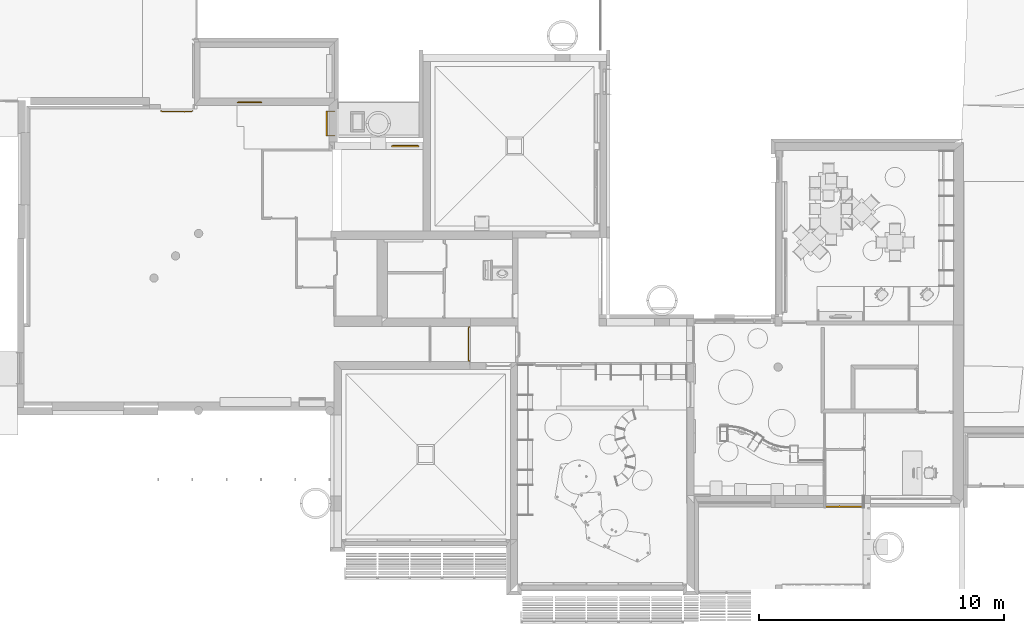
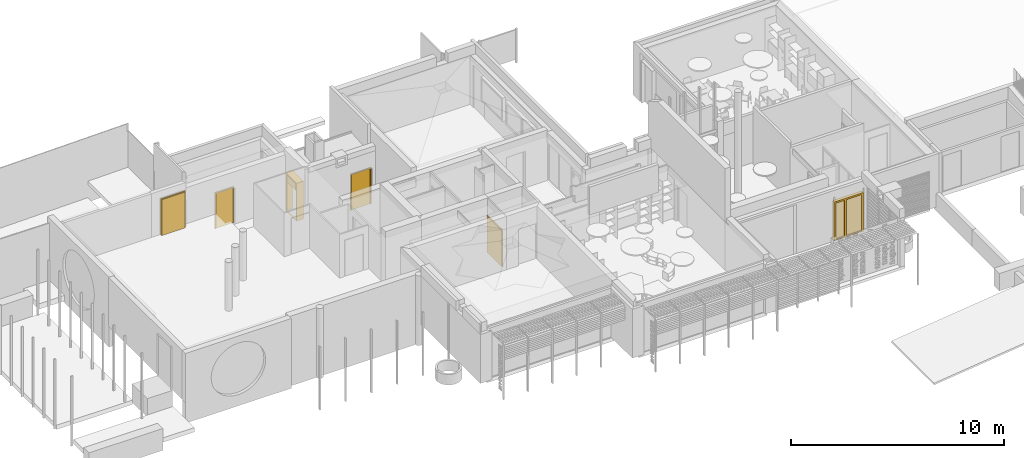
# One storey, part 46 of 64: 5 doors, 1 window.
"""IFC2X3 building model written with IfcOpenShell, lengths in metres."""

from ifc_helpers import new_model, entity, si_unit, converted_unit, derived_unit, direction, frame, origin, place, context, subcontext, project, spatial, faceted_brep, source, transform, mapped, material, type_object, type_shapes, element, save


model = new_model("IFC2X3")

# Units and contexts
model_context = context("Model", 3, precision=1e-05, world=origin(), true_north=direction((6.123031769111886e-17, 1.0)))
body_context = subcontext(model_context, "Body", "Model", "MODEL_VIEW")
ifc_project = project(units=[si_unit("LENGTHUNIT", "METRE"), si_unit("AREAUNIT", "SQUARE_METRE"), si_unit("VOLUMEUNIT", "CUBIC_METRE"), converted_unit("PLANEANGLEUNIT", "DEGREE", entity("IfcRatioMeasure", 0.017453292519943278), si_unit("PLANEANGLEUNIT", "RADIAN"), dimensions=[0, 0, 0, 0, 0, 0, 0]), si_unit("MASSUNIT", "GRAM", prefix="KILO"), derived_unit("MASSDENSITYUNIT", [(si_unit("MASSUNIT", "GRAM", prefix="KILO"), 1), (si_unit("LENGTHUNIT", "METRE"), -3)]), derived_unit("MOMENTOFINERTIAUNIT", [(si_unit("LENGTHUNIT", "METRE"), 4)]), si_unit("TIMEUNIT", "SECOND"), si_unit("FREQUENCYUNIT", "HERTZ"), si_unit("THERMODYNAMICTEMPERATUREUNIT", "DEGREE_CELSIUS"), derived_unit("THERMALTRANSMITTANCEUNIT", [(si_unit("MASSUNIT", "GRAM", prefix="KILO"), 1), (si_unit("THERMODYNAMICTEMPERATUREUNIT", "KELVIN"), -1), (si_unit("TIMEUNIT", "SECOND"), -3)]), derived_unit("THERMALCONDUCTANCEUNIT", [(si_unit("MASSUNIT", "GRAM", prefix="KILO"), 1), (si_unit("LENGTHUNIT", "METRE"), 1), (si_unit("THERMODYNAMICTEMPERATUREUNIT", "KELVIN"), -1), (si_unit("TIMEUNIT", "SECOND"), -3)]), derived_unit("VOLUMETRICFLOWRATEUNIT", [(si_unit("LENGTHUNIT", "METRE"), 3), (si_unit("TIMEUNIT", "SECOND"), -1)]), derived_unit("MASSFLOWRATEUNIT", [(si_unit("MASSUNIT", "GRAM", prefix="KILO"), 1), (si_unit("TIMEUNIT", "SECOND"), -1)]), derived_unit("ROTATIONALFREQUENCYUNIT", [(si_unit("TIMEUNIT", "SECOND"), -1)]), si_unit("ELECTRICCURRENTUNIT", "AMPERE"), si_unit("ELECTRICVOLTAGEUNIT", "VOLT"), si_unit("POWERUNIT", "WATT"), si_unit("FORCEUNIT", "NEWTON", prefix="KILO"), si_unit("ILLUMINANCEUNIT", "LUX"), si_unit("LUMINOUSFLUXUNIT", "LUMEN"), si_unit("LUMINOUSINTENSITYUNIT", "CANDELA"), derived_unit("USERDEFINED", [(si_unit("MASSUNIT", "GRAM", prefix="KILO"), -1), (si_unit("LENGTHUNIT", "METRE"), -2), (si_unit("TIMEUNIT", "SECOND"), 3), (si_unit("LUMINOUSFLUXUNIT", "LUMEN"), 1)]), derived_unit("USERDEFINED", [(si_unit("MASSUNIT", "GRAM", prefix="KILO"), 1), (si_unit("LENGTHUNIT", "METRE"), 3), (si_unit("TIMEUNIT", "SECOND"), -3), (si_unit("ELECTRICCURRENTUNIT", "AMPERE"), -2)]), derived_unit("USERDEFINED", [(si_unit("LENGTHUNIT", "METRE"), 2), (si_unit("TIMEUNIT", "SECOND"), -2)]), derived_unit("SOUNDPOWERUNIT", [(si_unit("MASSUNIT", "GRAM", prefix="KILO"), 1), (si_unit("LENGTHUNIT", "METRE"), 2), (si_unit("TIMEUNIT", "SECOND"), -3)]), derived_unit("SOUNDPRESSUREUNIT", [(si_unit("MASSUNIT", "GRAM", prefix="KILO"), 1), (si_unit("LENGTHUNIT", "METRE"), -1), (si_unit("TIMEUNIT", "SECOND"), -2)]), derived_unit("LINEARVELOCITYUNIT", [(si_unit("LENGTHUNIT", "METRE"), 1), (si_unit("TIMEUNIT", "SECOND"), -1)]), si_unit("PRESSUREUNIT", "PASCAL"), derived_unit("USERDEFINED", [(si_unit("LENGTHUNIT", "METRE"), -2), (si_unit("MASSUNIT", "GRAM", prefix="KILO"), 1), (si_unit("TIMEUNIT", "SECOND"), -2)]), derived_unit("LINEARFORCEUNIT", [(si_unit("MASSUNIT", "GRAM", prefix="KILO"), 1), (si_unit("LENGTHUNIT", "METRE"), 1), (si_unit("TIMEUNIT", "SECOND"), -2), (si_unit("LENGTHUNIT", "METRE"), -1)]), derived_unit("PLANARFORCEUNIT", [(si_unit("MASSUNIT", "GRAM", prefix="KILO"), 1), (si_unit("LENGTHUNIT", "METRE"), 1), (si_unit("TIMEUNIT", "SECOND"), -2), (si_unit("LENGTHUNIT", "METRE"), -2)]), derived_unit("SPECIFICHEATCAPACITYUNIT", [(si_unit("LENGTHUNIT", "METRE"), 2), (si_unit("TIMEUNIT", "SECOND"), -2), (si_unit("THERMODYNAMICTEMPERATUREUNIT", "KELVIN"), -1)]), derived_unit("VAPORPERMEABILITYUNIT", [(si_unit("TIMEUNIT", "SECOND"), 1), (si_unit("LENGTHUNIT", "METRE"), -1)]), derived_unit("DYNAMICVISCOSITYUNIT", [(si_unit("MASSUNIT", "GRAM", prefix="KILO"), 1), (si_unit("LENGTHUNIT", "METRE"), -1), (si_unit("TIMEUNIT", "SECOND"), -1)]), derived_unit("THERMALEXPANSIONCOEFFICIENTUNIT", [(si_unit("THERMODYNAMICTEMPERATUREUNIT", "KELVIN"), -1)])], contexts=[model_context])

# Site, building, storey
site_placement = place(None, origin())
site = spatial("IfcSite", under=ifc_project, at=site_placement, Name="Default", CompositionType="ELEMENT")
building_placement = place(site_placement, origin())
building = spatial("IfcBuilding", under=site, at=building_placement, CompositionType="ELEMENT")
storey_placement = place(building_placement, origin())
storey = spatial("IfcBuildingStorey", under=building, at=storey_placement, Name="REZ-DE-CHAUSSÉE", CompositionType="ELEMENT", Elevation=0.0)

# Doors
ifc_material_1 = material(Name="Peinture - Anthracite")
door_style_1 = type_object("IfcDoorStyle", Name="Por-003", ConstructionType="NOTDEFINED", OperationType="SINGLE_SWING_RIGHT", ParameterTakesPrecedence=False, Sizeable=False, material=ifc_material_1)
shared_shape_1 = source(origin(), body_context, "Body", "Brep", [
    faceted_brep([(1.1299999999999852, -0.30600000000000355, 0.0), (1.0949999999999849, -0.30600000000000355, 0.0), (1.0949999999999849, -0.30600000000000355, 2.055), (0.03499999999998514, -0.30600000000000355, 2.055), (0.03499999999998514, -0.30600000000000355, 0.0), (0.0, -0.30600000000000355, 0.0), (0.0, -0.30600000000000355, 2.09), (1.1299999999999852, -0.30600000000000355, 2.09), (1.1299999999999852, -0.35600000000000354, 0.0), (1.0799999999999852, -0.35600000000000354, 0.0), (1.0799999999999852, -0.3210000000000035, 0.0), (1.0949999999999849, -0.3210000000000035, 0.0), (1.0949999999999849, -0.3210000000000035, 2.055), (0.03499999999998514, -0.3210000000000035, 2.055), (0.03499999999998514, -0.3210000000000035, 0.0), (0.04999999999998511, -0.3210000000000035, 0.0), (0.04999999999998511, -0.35600000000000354, 0.0), (0.0, -0.35600000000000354, 0.0), (0.0, -0.35600000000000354, 2.09), (1.1299999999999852, -0.35600000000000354, 2.09), (0.04999999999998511, -0.35600000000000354, 2.04), (1.0799999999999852, -0.35600000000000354, 2.04), (1.0799999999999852, -0.3210000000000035, 2.04), (0.04999999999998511, -0.3210000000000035, 2.04), (1.0949999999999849, -0.28100000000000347, 0.0), (0.03499999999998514, -0.28100000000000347, 0.0), (1.0949999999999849, -0.28100000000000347, 2.055), (0.03499999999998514, -0.28100000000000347, 2.055)], [[[0, 1, 2, 3, 4, 5, 6, 7]], [[0, 8, 9, 10, 11, 1]], [[1, 11, 12, 2]], [[2, 12, 13, 3]], [[3, 13, 14, 4]], [[5, 4, 14, 15, 16, 17]], [[18, 6, 5, 17]], [[19, 7, 6, 18]], [[8, 0, 7, 19]], [[9, 8, 19, 18, 17, 16, 20, 21]], [[10, 9, 21, 22]], [[11, 10, 22, 23, 15, 14, 13, 12]], [[23, 20, 16, 15]], [[22, 21, 20, 23]], [[24, 11, 14, 25]], [[26, 12, 11, 24]], [[11, 12, 13, 14]], [[25, 14, 13, 27]], [[24, 25, 27, 26]], [[27, 13, 12, 26]]]),
])
type_shapes(door_style_1, [shared_shape_1])
door_1_placement = place(storey_placement, frame((105.01075227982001, 22.683209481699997, -1.0)))
element("IfcDoor", 1, at=door_1_placement, inside=storey, type_object=door_style_1, material=ifc_material_1, Name="Por-003 14862:Por-003 14862", ObjectType="Por-003 14862:Por-003 14862", OverallHeight=2.09, OverallWidth=1.1300000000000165, context=body_context, shape_type="MappedRepresentation", body=[
    mapped(shared_shape_1, transform((0.0, 0.0, 0.0), scale=1.0)),
])
ifc_material_2 = material(Name="Peinture - Gris clair")
door_style_2 = type_object("IfcDoorStyle", Name="Por-003", ConstructionType="NOTDEFINED", OperationType="SINGLE_SWING_LEFT", ParameterTakesPrecedence=False, Sizeable=False, material=ifc_material_2)
shared_shape_2 = source(origin(), body_context, "Body", "Brep", [
    faceted_brep([(0.0, 0.29579999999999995, 0.0), (0.0, 0.29579999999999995, 2.09), (1.03, 0.29579999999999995, 2.09), (1.03, 0.29579999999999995, 0.0), (0.995, 0.29579999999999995, 0.0), (0.995, 0.29579999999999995, 2.055), (0.03500000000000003, 0.29579999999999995, 2.055), (0.03500000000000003, 0.29579999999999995, 0.0), (0.0, 0.24579999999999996, 0.0), (0.0, 0.24579999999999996, 2.09), (1.03, 0.24579999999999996, 2.09), (1.03, 0.24579999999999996, 0.0), (0.98, 0.24579999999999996, 0.0), (0.98, 0.28079999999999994, 0.0), (0.995, 0.28079999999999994, 0.0), (0.995, 0.28079999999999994, 2.055), (0.03500000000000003, 0.28079999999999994, 2.055), (0.03500000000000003, 0.28079999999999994, 0.0), (0.05, 0.28079999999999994, 0.0), (0.05, 0.24579999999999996, 0.0), (0.98, 0.24579999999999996, 2.04), (0.05, 0.24579999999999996, 2.04), (0.98, 0.28079999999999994, 2.04), (0.05, 0.28079999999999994, 2.04), (0.03500000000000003, 0.3208, 0.0), (0.995, 0.3208, 0.0), (0.03500000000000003, 0.3208, 2.055), (0.995, 0.3208, 2.055)], [[[0, 1, 2, 3, 4, 5, 6, 7]], [[8, 9, 1, 0]], [[9, 10, 2, 1]], [[10, 11, 3, 2]], [[3, 11, 12, 13, 14, 4]], [[5, 4, 14, 15]], [[6, 5, 15, 16]], [[7, 6, 16, 17]], [[0, 7, 17, 18, 19, 8]], [[19, 8, 9, 10, 11, 12, 20, 21]], [[22, 13, 12, 20]], [[17, 16, 15, 14, 13, 22, 23, 18]], [[18, 23, 21, 19]], [[23, 22, 20, 21]], [[24, 25, 14, 17]], [[24, 26, 27, 25]], [[25, 27, 15, 14]], [[17, 14, 15, 16]], [[26, 24, 17, 16]], [[27, 26, 16, 15]]]),
])
type_shapes(door_style_2, [shared_shape_2])
door_2_placement = place(storey_placement, frame((98.70075228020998, 23.871409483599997, -0.94)))
element("IfcDoor", 2, at=door_2_placement, inside=storey, type_object=door_style_2, material=ifc_material_2, Name="Por-003 9927:Por-003 9927", ObjectType="Por-003 9927:Por-003 9927", OverallHeight=2.09, OverallWidth=1.0300000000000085, context=body_context, shape_type="MappedRepresentation", body=[
    mapped(shared_shape_2, transform((0.0, 0.0, 0.0), scale=1.0)),
])
door_style_3 = type_object("IfcDoorStyle", Name="Por-003", ConstructionType="NOTDEFINED", OperationType="DOUBLE_DOOR_SINGLE_SWING", ParameterTakesPrecedence=False, Sizeable=False, material=ifc_material_2)
shared_shape_3 = source(origin(), body_context, "Body", "Brep", [
    faceted_brep([(1.329999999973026, 0.3837999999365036, 0.0), (1.2949999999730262, 0.38379999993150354, 0.0), (1.2949999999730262, 0.38379999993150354, 2.055), (0.03499999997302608, 0.3837999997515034, 2.055), (0.03499999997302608, 0.3837999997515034, 0.0), (0.0, 0.3837999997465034, 0.0), (0.0, 0.3837999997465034, 2.09), (1.329999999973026, 0.3837999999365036, 2.09), (1.329999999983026, 0.33379999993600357, 0.0), (1.2799999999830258, 0.33379999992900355, 0.0), (1.279999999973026, 0.36879999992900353, 0.0), (1.2949999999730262, 0.3687999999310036, 0.0), (1.2949999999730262, 0.3687999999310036, 2.055), (0.03499999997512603, 0.36879999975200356, 2.055), (0.03499999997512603, 0.36879999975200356, 0.0), (0.04999999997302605, 0.3687999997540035, 0.0), (0.04999999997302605, 0.3337999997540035, 0.0), (0.0, 0.3337999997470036, 0.0), (0.0, 0.3337999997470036, 2.09), (1.329999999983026, 0.33379999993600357, 2.09), (0.04999999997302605, 0.3337999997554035, 2.04), (1.2799999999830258, 0.3337999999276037, 2.04), (1.279999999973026, 0.36879999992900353, 2.04), (0.04999999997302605, 0.368799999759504, 2.04), (0.03749999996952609, 0.4087999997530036, 0.0), (0.33749999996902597, 0.4087999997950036, 0.0), (0.337499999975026, 0.3687999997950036, 0.0), (0.03749999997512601, 0.3687999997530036, 0.0), (0.03749999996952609, 0.4087999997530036, 2.055), (0.337499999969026, 0.4087999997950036, 2.055), (0.33749999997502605, 0.3687999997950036, 2.055), (0.03749999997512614, 0.3687999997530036, 2.055), (1.2949999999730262, 0.4087999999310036, 0.0), (0.33999999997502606, 0.3687999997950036, 0.0), (0.3399999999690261, 0.4087999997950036, 0.0), (1.2949999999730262, 0.4087999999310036, 2.055), (0.33999999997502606, 0.3687999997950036, 2.055), (0.339999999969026, 0.4087999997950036, 2.055), (0.35499999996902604, 0.4137999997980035, 0.0), (0.3249999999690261, 0.4137999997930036, 0.0), (0.3249999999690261, 0.4137999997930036, 2.055), (0.35499999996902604, 0.4137999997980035, 2.055), (0.35499999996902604, 0.4087999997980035, 0.0), (0.324999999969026, 0.4087999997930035, 0.0), (0.324999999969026, 0.4087999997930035, 2.055), (0.35499999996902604, 0.4087999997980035, 2.055)], [[[0, 1, 2, 3, 4, 5, 6, 7]], [[0, 8, 9, 10, 11, 1]], [[1, 11, 12, 2]], [[2, 12, 13, 3]], [[3, 13, 14, 4]], [[5, 4, 14, 15, 16, 17]], [[18, 6, 5, 17]], [[19, 7, 6, 18]], [[8, 0, 7, 19]], [[9, 8, 19, 18, 17, 16, 20, 21]], [[10, 9, 21, 22]], [[11, 10, 22, 23, 15, 14, 13, 12]], [[23, 20, 16, 15]], [[22, 21, 20, 23]], [[24, 25, 26, 27]], [[24, 28, 29, 25]], [[25, 29, 30, 26]], [[27, 26, 30, 31]], [[28, 24, 27, 31]], [[29, 28, 31, 30]], [[32, 11, 33, 34]], [[35, 12, 11, 32]], [[11, 12, 36, 33]], [[34, 33, 36, 37]], [[32, 34, 37, 35]], [[37, 36, 12, 35]], [[38, 39, 40, 41]], [[39, 38, 42, 43]], [[40, 39, 43, 44]], [[41, 40, 44, 45]], [[38, 41, 45, 42]], [[43, 42, 45, 44]]]),
])
type_shapes(door_style_3, [shared_shape_3])
door_3_placement = place(storey_placement, frame((96.90575228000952, 24.156009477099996, 0.0), z_axis=(0.0, 0.0, 1.0), x_axis=(-1.0, 0.0, 0.0)))
element("IfcDoor", 3, at=door_3_placement, inside=storey, type_object=door_style_3, material=ifc_material_2, Name="Por-003 18623:Por-003 18623", ObjectType="Por-003 18623:Por-003 18623", OverallHeight=2.09, OverallWidth=1.3300000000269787, context=body_context, shape_type="MappedRepresentation", body=[
    mapped(shared_shape_3, transform((0.0, 0.0, 0.0), scale=1.0)),
])
door_style_4 = type_object("IfcDoorStyle", Name="Por-003", ConstructionType="NOTDEFINED", OperationType="DOUBLE_DOOR_SINGLE_SWING", ParameterTakesPrecedence=False, Sizeable=False, material=ifc_material_2)
shared_shape_4 = source(origin(), body_context, "Body", "Brep", [
    faceted_brep([(1.439999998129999, 0.10100000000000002, 0.0), (1.404999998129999, 0.10100000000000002, 0.0), (1.404999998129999, 0.10100000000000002, 2.055), (0.03499999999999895, 0.10100000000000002, 2.055), (0.03499999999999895, 0.10100000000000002, 0.0), (0.0, 0.10100000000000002, 0.0), (0.0, 0.10100000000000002, 2.09), (1.439999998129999, 0.10100000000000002, 2.09), (1.439999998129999, 0.051000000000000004, 0.0), (1.3899999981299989, 0.051000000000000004, 0.0), (1.3899999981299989, 0.08600000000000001, 0.0), (1.404999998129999, 0.08600000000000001, 0.0), (1.404999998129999, 0.08600000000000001, 2.055), (0.03499999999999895, 0.08600000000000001, 2.055), (0.03499999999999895, 0.08600000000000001, 0.0), (0.04999999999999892, 0.08600000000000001, 0.0), (0.04999999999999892, 0.051000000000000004, 0.0), (0.0, 0.051000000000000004, 0.0), (0.0, 0.051000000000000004, 2.09), (1.439999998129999, 0.051000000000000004, 2.09), (0.04999999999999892, 0.051000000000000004, 2.04), (1.3899999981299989, 0.051000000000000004, 2.04), (1.3899999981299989, 0.08600000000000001, 2.04), (0.04999999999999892, 0.08600000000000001, 2.04), (0.03749999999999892, 0.12599999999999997, 0.0), (0.45749999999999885, 0.12599999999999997, 0.0), (0.45749999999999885, 0.08600000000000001, 0.0), (0.03749999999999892, 0.08600000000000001, 0.0), (0.03749999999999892, 0.12599999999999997, 2.055), (0.45749999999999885, 0.12599999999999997, 2.055), (0.45749999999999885, 0.08600000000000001, 2.055), (0.03749999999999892, 0.08600000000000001, 2.055), (1.404999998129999, 0.12599999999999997, 0.0), (0.45999999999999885, 0.08600000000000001, 0.0), (0.45999999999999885, 0.12599999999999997, 0.0), (1.404999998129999, 0.12599999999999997, 2.055), (0.45999999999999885, 0.08600000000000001, 2.055), (0.45999999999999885, 0.12599999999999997, 2.055), (0.47499999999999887, 0.131, 0.0), (0.44499999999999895, 0.131, 0.0), (0.44499999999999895, 0.131, 2.055), (0.47499999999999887, 0.131, 2.055), (0.47499999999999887, 0.12599999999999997, 0.0), (0.44499999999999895, 0.12599999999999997, 0.0), (0.44499999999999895, 0.12599999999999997, 2.055), (0.47499999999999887, 0.12599999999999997, 2.055)], [[[0, 1, 2, 3, 4, 5, 6, 7]], [[0, 8, 9, 10, 11, 1]], [[1, 11, 12, 2]], [[2, 12, 13, 3]], [[3, 13, 14, 4]], [[5, 4, 14, 15, 16, 17]], [[18, 6, 5, 17]], [[19, 7, 6, 18]], [[8, 0, 7, 19]], [[9, 8, 19, 18, 17, 16, 20, 21]], [[10, 9, 21, 22]], [[11, 10, 22, 23, 15, 14, 13, 12]], [[23, 20, 16, 15]], [[22, 21, 20, 23]], [[24, 25, 26, 27]], [[24, 28, 29, 25]], [[25, 29, 30, 26]], [[27, 26, 30, 31]], [[28, 24, 27, 31]], [[29, 28, 31, 30]], [[32, 11, 33, 34]], [[35, 12, 11, 32]], [[11, 12, 36, 33]], [[34, 33, 36, 37]], [[32, 34, 37, 35]], [[37, 36, 12, 35]], [[38, 39, 40, 41]], [[39, 38, 42, 43]], [[40, 39, 43, 44]], [[41, 40, 44, 45]], [[38, 41, 45, 42]], [[43, 42, 45, 44]]]),
])
type_shapes(door_style_4, [shared_shape_4])
door_4_placement = place(storey_placement, frame((108.266752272, 13.54720948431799, 0.0), z_axis=(0.0, 0.0, 1.0), x_axis=(0.0, 1.0, 0.0)))
element("IfcDoor", 4, at=door_4_placement, inside=storey, type_object=door_style_4, material=ifc_material_2, Name="Por-003 22154:Por-003 22154", ObjectType="Por-003 22154:Por-003 22154", OverallHeight=2.09, OverallWidth=1.43999999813, context=body_context, shape_type="MappedRepresentation", body=[
    mapped(shared_shape_4, transform((0.0, 0.0, 0.0), scale=1.0)),
])

# Window
window_style = type_object("IfcWindowStyle", Name="Fen-003", ConstructionType="NOTDEFINED", OperationType="SINGLE_PANEL", ParameterTakesPrecedence=False, Sizeable=False, material=ifc_material_1)
shared_shape_5 = source(origin(), body_context, "Body", "Brep", [
    faceted_brep([(124.30075228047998, 7.587209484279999, 0.0), (122.72075228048, 7.587209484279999, 0.0), (122.72075228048, 7.657209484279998, 0.0), (124.30075228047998, 7.657209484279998, 0.0), (124.30075228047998, 7.587209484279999, 2.23), (122.72075228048, 7.587209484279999, 2.23), (124.25075228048, 7.587209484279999, 0.0), (122.77075228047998, 7.587209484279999, 0.0), (122.77075228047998, 7.587209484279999, 2.18), (124.25075228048, 7.587209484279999, 2.18), (122.72075228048, 7.657209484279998, 2.23), (124.30075228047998, 7.657209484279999, 2.23), (124.25075228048, 7.657209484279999, 0.0), (124.25075228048, 7.657209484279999, 2.18), (122.77075228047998, 7.657209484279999, 2.18), (122.77075228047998, 7.657209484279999, 0.0), (123.32065228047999, 7.587209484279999, 0.0), (123.32065228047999, 7.587209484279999, 2.18), (122.82075228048, 7.587209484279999, 2.13), (123.27075228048, 7.587209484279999, 2.13), (123.27075228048, 7.587209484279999, 0.05), (122.82075228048, 7.587209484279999, 0.05), (123.32065228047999, 7.657209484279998, 0.0), (123.32065228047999, 7.657209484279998, 2.18), (122.82075228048, 7.657209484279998, 2.13), (123.27075228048, 7.657209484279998, 2.13), (123.27075228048, 7.657209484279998, 0.05), (122.82075228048, 7.657209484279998, 0.05), (122.77075228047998, 7.62220948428, 0.0), (122.77075228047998, 7.62220948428, 2.18), (123.32065228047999, 7.62220948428, 0.0), (123.32065228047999, 7.62220948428, 2.18), (123.27075228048, 7.617209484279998, 0.05), (122.82075228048, 7.617209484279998, 0.05), (122.82075228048, 7.627209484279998, 0.05), (123.27075228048, 7.627209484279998, 0.05), (123.27075228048, 7.617209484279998, 2.13), (122.82075228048, 7.617209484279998, 2.13), (122.82075228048, 7.627209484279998, 2.13), (123.27075228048, 7.627209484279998, 2.13), (123.30825228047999, 7.657309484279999, 0.002999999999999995), (123.30825228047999, 7.657309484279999, 2.177), (123.30825228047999, 7.677209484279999, 2.177), (123.30825228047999, 7.677209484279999, 0.002999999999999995), (123.33325228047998, 7.657309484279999, 0.002999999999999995), (123.33325228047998, 7.657309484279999, 2.177), (123.33325228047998, 7.677209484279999, 2.177), (123.33325228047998, 7.677209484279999, 0.002999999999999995), (123.32075228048, 7.587209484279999, 2.18), (123.32075228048, 7.587209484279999, 0.0), (124.20075228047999, 7.587209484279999, 2.13), (124.20075228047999, 7.587209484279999, 0.05), (123.37075228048, 7.587209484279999, 0.05), (123.37075228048, 7.587209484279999, 2.13), (123.32075228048, 7.657209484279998, 2.18), (123.32075228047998, 7.657209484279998, 0.0), (124.20075228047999, 7.657209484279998, 2.13), (124.20075228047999, 7.657209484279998, 0.05), (123.37075228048, 7.657209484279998, 0.05), (123.37075228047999, 7.657209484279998, 2.13), (123.32075228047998, 7.62220948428, 2.18), (123.32075228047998, 7.62220948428, 0.0), (124.25075228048, 7.62220948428, 2.18), (124.25075228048, 7.62220948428, 0.0), (123.37075228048, 7.617209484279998, 0.05), (123.37075228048, 7.627209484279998, 0.05), (124.20075228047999, 7.627209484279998, 0.05), (124.20075228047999, 7.617209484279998, 0.05), (123.37075228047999, 7.617209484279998, 2.13), (123.37075228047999, 7.627209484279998, 2.13), (124.20075228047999, 7.627209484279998, 2.13), (124.20075228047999, 7.617209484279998, 2.13), (124.30075228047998, 7.657209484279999, 2.2), (122.72075228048, 7.657209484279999, 2.2), (124.30075228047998, 7.747209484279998, 2.2), (124.30075228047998, 7.747209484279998, 2.23), (122.72075228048, 7.747209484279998, 2.23), (122.72075228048, 7.747209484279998, 2.2), (124.27075228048, 7.657209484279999, 0.0), (124.27075228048, 7.657209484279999, 2.2), (124.27075228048, 7.747209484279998, 2.2), (124.27075228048, 7.747209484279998, 0.0), (124.30075228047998, 7.747209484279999, 0.0), (122.72075228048, 7.747209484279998, 0.0), (122.75075228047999, 7.657209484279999, 0.0), (122.75075228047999, 7.657209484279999, 2.2), (122.75075228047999, 7.747209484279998, 2.2), (122.75075228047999, 7.747209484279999, 0.0)], [[[0, 1, 2, 3]], [[0, 4, 5, 1], [6, 7, 8, 9]], [[1, 5, 10, 2]], [[3, 2, 10, 11], [12, 13, 14, 15]], [[4, 0, 3, 11]], [[5, 4, 11, 10]], [[7, 6, 12, 15]], [[8, 7, 15, 14]], [[9, 8, 14, 13]], [[6, 9, 13, 12]], [[8, 7, 16, 17], [18, 19, 20, 21]], [[7, 8, 14, 15]], [[16, 7, 15, 22]], [[16, 22, 23, 17]], [[8, 17, 23, 14]], [[19, 18, 24, 25]], [[26, 20, 19, 25]], [[27, 21, 20, 26]], [[18, 21, 27, 24]], [[22, 15, 14, 23], [27, 26, 25, 24]], [[7, 28, 29, 8]], [[30, 28, 7, 16]], [[31, 29, 8, 17]], [[28, 15, 14, 29]], [[22, 15, 28, 30]], [[23, 14, 29, 31]], [[32, 33, 34, 35]], [[32, 36, 37, 33]], [[33, 37, 38, 34]], [[35, 34, 38, 39]], [[36, 32, 35, 39]], [[37, 36, 39, 38]], [[40, 41, 42, 43]], [[44, 45, 41, 40]], [[41, 45, 46, 42]], [[43, 42, 46, 47]], [[40, 43, 47, 44]], [[47, 46, 45, 44]], [[9, 48, 49, 6], [50, 51, 52, 53]], [[9, 13, 54, 48]], [[54, 55, 49, 48]], [[55, 12, 6, 49]], [[6, 12, 13, 9]], [[50, 56, 57, 51]], [[57, 58, 52, 51]], [[58, 59, 53, 52]], [[53, 59, 56, 50]], [[54, 13, 12, 55], [57, 56, 59, 58]], [[49, 48, 60, 61]], [[6, 9, 62, 63]], [[49, 6, 63, 61]], [[48, 9, 62, 60]], [[61, 60, 54, 55]], [[63, 62, 13, 12]], [[61, 63, 12, 55]], [[60, 62, 13, 54]], [[64, 65, 66, 67]], [[68, 69, 65, 64]], [[65, 69, 70, 66]], [[67, 66, 70, 71]], [[64, 67, 71, 68]], [[71, 70, 69, 68]], [[72, 11, 10, 73]], [[74, 75, 11, 72]], [[11, 75, 76, 10]], [[73, 10, 76, 77]], [[72, 73, 77, 74]], [[77, 76, 75, 74]], [[78, 79, 80, 81]], [[3, 72, 79, 78]], [[79, 72, 74, 80]], [[81, 80, 74, 82]], [[78, 81, 82, 3]], [[82, 74, 72, 3]], [[2, 73, 77, 83]], [[84, 85, 73, 2]], [[73, 85, 86, 77]], [[83, 77, 86, 87]], [[2, 83, 87, 84]], [[87, 86, 85, 84]]]),
])
type_shapes(window_style, [shared_shape_5])
window_placement = place(storey_placement, origin())
element("IfcWindow", 5, at=window_placement, inside=storey, type_object=window_style, material=ifc_material_1, Name="Fen-003 30667 30667:Fen-003 30667 30667", ObjectType="Fen-003 30667 30667:Fen-003 30667 30667", OverallHeight=2.23, OverallWidth=1.5799999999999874, context=body_context, shape_type="MappedRepresentation", body=[
    mapped(shared_shape_5, transform((0.0, 0.0, 0.0), scale=1.0)),
])

# Door
door_style_5 = type_object("IfcDoorStyle", Name="Por-002", ConstructionType="NOTDEFINED", OperationType="SINGLE_SWING_LEFT", ParameterTakesPrecedence=False, Sizeable=False, material=ifc_material_1)
shared_shape_6 = source(origin(), body_context, "Body", "Brep", [
    faceted_brep([(1.0299999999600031, -0.7041000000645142, 0.0), (0.0, -0.7040999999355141, 0.0), (0.0, -0.6540999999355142, 0.0), (1.0299999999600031, -0.6541000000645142, 0.0), (1.0299999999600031, -0.7041000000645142, 2.1699999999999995), (0.0, -0.7040999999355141, 2.1699999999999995), (0.9799999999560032, -0.7041000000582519, 0.0), (0.049999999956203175, -0.7040999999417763, 0.0), (0.049999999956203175, -0.7040999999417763, 2.12), (0.9799999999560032, -0.7041000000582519, 2.12), (0.0, -0.6540999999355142, 2.1699999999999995), (1.0299999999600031, -0.6541000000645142, 2.1699999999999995), (0.9799999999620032, -0.654100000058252, 0.0), (0.9799999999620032, -0.654100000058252, 2.12), (0.049999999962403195, -0.6540999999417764, 2.12), (0.049999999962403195, -0.6540999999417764, 0.0), (0.09999999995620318, -0.7040999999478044, 2.07), (0.9299999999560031, -0.704100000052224, 2.07), (0.9299999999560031, -0.704100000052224, 1.7), (0.09999999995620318, -0.7040999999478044, 1.7), (0.09999999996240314, -0.6540999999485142, 2.07), (0.9299999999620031, -0.6541000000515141, 2.07), (0.929999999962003, -0.6541000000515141, 1.7), (0.09999999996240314, -0.6540999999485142, 1.7), (0.979999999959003, -0.6791000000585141, 0.0), (0.979999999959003, -0.6791000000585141, 2.12), (0.04999999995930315, -0.6790999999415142, 0.0), (0.04999999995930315, -0.6790999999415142, 2.12), (0.9299999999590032, -0.6816000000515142, 1.7), (0.0999999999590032, -0.6815999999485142, 1.7), (0.09999999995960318, -0.6765999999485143, 1.7), (0.9299999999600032, -0.6766000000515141, 1.7), (0.9299999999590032, -0.6816000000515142, 2.07), (0.09999999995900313, -0.6815999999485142, 2.07), (0.09999999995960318, -0.6765999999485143, 2.07), (0.9299999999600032, -0.6766000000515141, 2.07), (1.0299999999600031, -0.6541000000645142, 2.15), (0.0, -0.6540999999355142, 2.15), (1.0300000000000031, -0.3441000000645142, 2.15), (1.0300000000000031, -0.3441000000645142, 2.1699999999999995), (0.0, -0.3440999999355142, 2.1699999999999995), (0.0, -0.3440999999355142, 2.15), (1.009999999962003, -0.6541000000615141, 0.0), (1.009999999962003, -0.6541000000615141, 2.15), (1.0100000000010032, -0.3441000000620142, 2.15), (1.0100000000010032, -0.3441000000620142, 0.0), (1.0300000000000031, -0.3441000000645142, 0.0), (0.0, -0.3440999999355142, 0.0), (0.020000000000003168, -0.6540999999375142, 0.0), (0.020000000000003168, -0.6540999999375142, 2.15), (0.020000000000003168, -0.34409999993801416, 2.15), (0.020000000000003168, -0.3440999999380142, 0.0)], [[[0, 1, 2, 3]], [[0, 4, 5, 1], [6, 7, 8, 9]], [[1, 5, 10, 2]], [[3, 2, 10, 11], [12, 13, 14, 15]], [[4, 0, 3, 11]], [[5, 4, 11, 10]], [[7, 6, 12, 15]], [[8, 7, 15, 14]], [[9, 8, 14, 13]], [[6, 9, 13, 12]], [[8, 7, 6, 9], [16, 17, 18, 19]], [[7, 8, 14, 15]], [[12, 6, 7, 15]], [[13, 9, 6, 12]], [[8, 9, 13, 14]], [[17, 16, 20, 21]], [[22, 18, 17, 21]], [[23, 19, 18, 22]], [[16, 19, 23, 20]], [[13, 12, 15, 14], [23, 22, 21, 20]], [[6, 24, 25, 9]], [[7, 26, 27, 8]], [[6, 24, 26, 7]], [[9, 25, 27, 8]], [[24, 12, 13, 25]], [[26, 15, 14, 27]], [[24, 12, 15, 26]], [[25, 13, 14, 27]], [[28, 29, 30, 31]], [[28, 32, 33, 29]], [[29, 33, 34, 30]], [[31, 30, 34, 35]], [[32, 28, 31, 35]], [[33, 32, 35, 34]], [[36, 11, 10, 37]], [[38, 39, 11, 36]], [[11, 39, 40, 10]], [[37, 10, 40, 41]], [[36, 37, 41, 38]], [[41, 40, 39, 38]], [[36, 37, 10, 11]], [[38, 41, 40, 39]], [[42, 43, 44, 45]], [[3, 36, 43, 42]], [[43, 36, 38, 44]], [[45, 44, 38, 46]], [[42, 45, 46, 3]], [[46, 38, 36, 3]], [[2, 37, 41, 47]], [[48, 49, 37, 2]], [[37, 49, 50, 41]], [[47, 41, 50, 51]], [[2, 47, 51, 48]], [[51, 50, 49, 48]]]),
])
type_shapes(door_style_5, [shared_shape_6])
door_5_placement = place(storey_placement, frame((103.04985228, 23.797209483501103, -0.94), z_axis=(0.0, 0.0, 1.0), x_axis=(0.0, -1.0, 0.0)))
element("IfcDoor", 6, at=door_5_placement, inside=storey, type_object=door_style_5, material=ifc_material_1, Name="Por-002 137667:Por-002 137667", ObjectType="Por-002 137667:Por-002 137667", OverallHeight=2.1699999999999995, OverallWidth=1.030000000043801, context=body_context, shape_type="MappedRepresentation", body=[
    mapped(shared_shape_6, transform((0.0, 0.0, 0.0), scale=1.0)),
])

save(model, "model.ifc")
